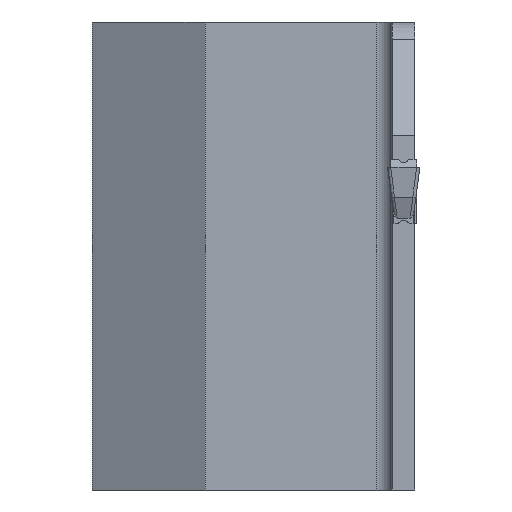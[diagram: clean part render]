
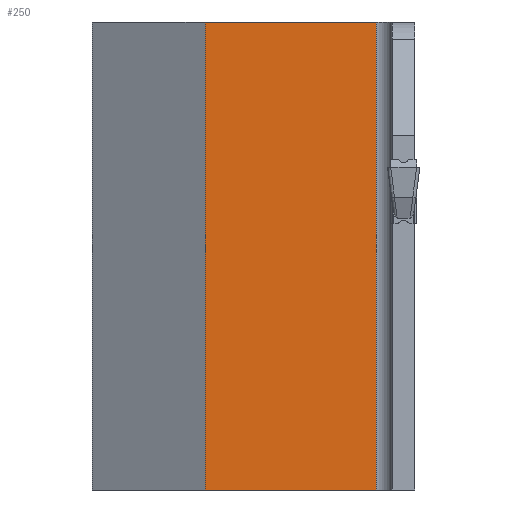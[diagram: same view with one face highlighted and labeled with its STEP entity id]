
A CAD part, left-side view. The second image highlights one B-rep face of the part: STEP entity #250.
In plain terms, the highlighted planar face has unit normal (-1, 0, 0).
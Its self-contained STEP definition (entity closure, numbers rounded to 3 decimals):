
#250=ADVANCED_FACE('',(#383),#307,.T.);
#307=PLANE('',#1633);
#383=FACE_OUTER_BOUND('',#462,.T.);
#462=EDGE_LOOP('',(#833,#834,#835,#836));
#833=ORIENTED_EDGE('',*,*,#1190,.F.);
#834=ORIENTED_EDGE('',*,*,#1210,.F.);
#835=ORIENTED_EDGE('',*,*,#1196,.T.);
#836=ORIENTED_EDGE('',*,*,#1211,.T.);
#1001=VERTEX_POINT('',#2474);
#1002=VERTEX_POINT('',#2476);
#1006=VERTEX_POINT('',#2486);
#1007=VERTEX_POINT('',#2488);
#1190=EDGE_CURVE('',#1001,#1002,#1344,.T.);
#1196=EDGE_CURVE('',#1007,#1006,#1348,.T.);
#1210=EDGE_CURVE('',#1007,#1001,#1359,.T.);
#1211=EDGE_CURVE('',#1006,#1002,#1360,.T.);
#1344=LINE('',#2475,#1493);
#1348=LINE('',#2487,#1497);
#1359=LINE('',#2512,#1508);
#1360=LINE('',#2514,#1509);
#1493=VECTOR('',#1968,1.);
#1497=VECTOR('',#1978,1.);
#1508=VECTOR('',#2001,1.);
#1509=VECTOR('',#2004,1.);
#1633=AXIS2_PLACEMENT_3D('',#2515,#2005,#2006);
#1968=DIRECTION('',(0.,-1.,0.));
#1978=DIRECTION('',(0.,-1.,0.));
#2001=DIRECTION('',(0.,0.,1.));
#2004=DIRECTION('',(0.,0.,1.));
#2005=DIRECTION('',(-1.,0.,0.));
#2006=DIRECTION('',(0.,0.,1.));
#2474=CARTESIAN_POINT('',(14.5,12.3,9.));
#2475=CARTESIAN_POINT('',(14.5,12.3,9.));
#2476=CARTESIAN_POINT('',(14.5,1.7,9.));
#2486=CARTESIAN_POINT('',(14.5,1.7,-20.));
#2487=CARTESIAN_POINT('',(14.5,12.3,-20.));
#2488=CARTESIAN_POINT('',(14.5,12.3,-20.));
#2512=CARTESIAN_POINT('',(14.5,12.3,-20.));
#2514=CARTESIAN_POINT('',(14.5,1.7,-20.));
#2515=CARTESIAN_POINT('',(14.5,12.3,-20.));
